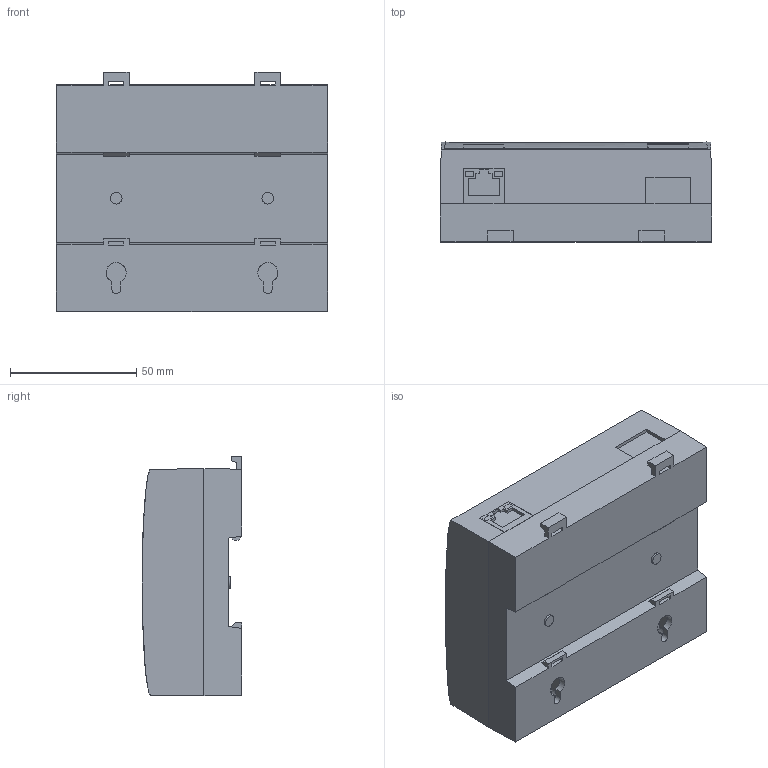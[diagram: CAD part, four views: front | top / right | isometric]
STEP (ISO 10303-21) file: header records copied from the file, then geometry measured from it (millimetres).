
FILE_DESCRIPTION(/* description */ ('STEP AP242','CAx-IF Rec.Pracs.---Representation and Presentation of Product Manufacturing Information (PMI)---4.0---2014-10-13','CAx-IF Rec.Pracs.---3D Tessellated Geometry---0.4---2014-09-14','2;1'),/* implementation_level */ '2;1');
FILE_NAME(/* name */ '6634da8c7859092b1b9c21bd',/* time_stamp */ '2024-05-03T12:37:34Z',/* author */ (''),/* organization */ (''),/* preprocessor_version */ 'ST-DEVELOPER v20',/* originating_system */ ' ',/* authorisation */ ' ');
FILE_SCHEMA (('AP242_MANAGED_MODEL_BASED_3D_ENGINEERING_MIM_LF { 1 0 10303 442 1 1 4 }'));
Length unit declared in the file: metre
Products named in the file (1): Switch
Bounding box: 107.5 x 39.5 x 94.94 mm (x, y, z)
Volume: 350072.8 mm3; surface area: 36219.1 mm2
Topology: 1 solids, 1 shells, 498 faces, 1230 edges, 814 vertices
Faces by surface type: plane 349, cylinder 87, bspline 62
Full cylindrical faces by diameter (mm): 0.544 x7, 0.705 x7, 0.866 x7, 0.99 x7, 1.485 x1, 1.8 x1, 2.3 x8, 4.6 x2, 9.9 x1, 10.782 x1
Entity records: 24417 total; most frequent: CARTESIAN_POINT 11897, ORIENTED_EDGE 2372, DIRECTION 1798, EDGE_CURVE 1186, LINE 884, VECTOR 884, VERTEX_POINT 812, EDGE_LOOP 624
